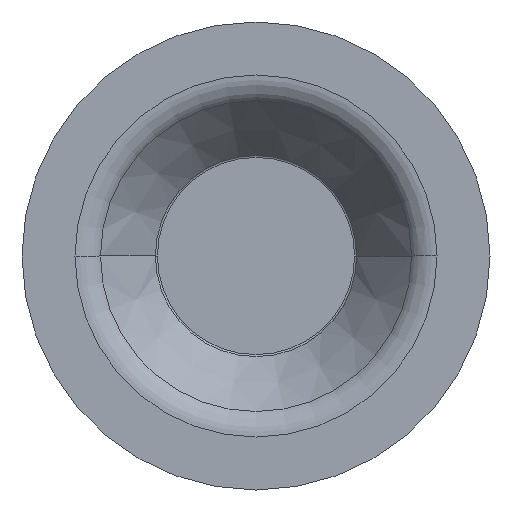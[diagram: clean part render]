
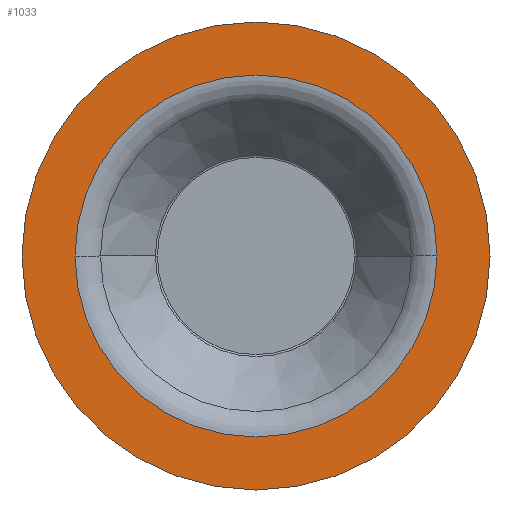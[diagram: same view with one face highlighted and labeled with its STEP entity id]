
A CAD part, front view. The second image highlights one B-rep face of the part: STEP entity #1033.
In plain terms, the highlighted planar face has unit normal (0, -1, 0).
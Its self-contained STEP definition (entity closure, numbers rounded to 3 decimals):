
#4 = EDGE_CURVE ( 'NONE', #700, #1322, #1376, .T. ) ;
#57 = EDGE_CURVE ( 'NONE', #1322, #700, #1025, .T. ) ;
#66 = DIRECTION ( 'NONE',  ( 0., -1., 0. ) ) ;
#114 = CIRCLE ( 'NONE', #1497, 36.744 ) ;
#128 = EDGE_CURVE ( 'NONE', #1304, #743, #970, .T. ) ;
#219 = DIRECTION ( 'NONE',  ( -1., 0., 0. ) ) ;
#278 = ORIENTED_EDGE ( 'NONE', *, *, #57, .T. ) ;
#282 = DIRECTION ( 'NONE',  ( 1., 0., 0. ) ) ;
#312 = CARTESIAN_POINT ( 'NONE',  ( 47.5, -22., 0. ) ) ;
#493 = DIRECTION ( 'NONE',  ( -1., 0., 0. ) ) ;
#557 = CARTESIAN_POINT ( 'NONE',  ( 36.744, -22., 0. ) ) ;
#594 = CARTESIAN_POINT ( 'NONE',  ( 47.5, -22., 0. ) ) ;
#602 = CARTESIAN_POINT ( 'NONE',  ( 0., -22., 0. ) ) ;
#641 = ORIENTED_EDGE ( 'NONE', *, *, #128, .F. ) ;
#646 = DIRECTION ( 'NONE',  ( 1., 0., 0. ) ) ;
#700 = VERTEX_POINT ( 'NONE', #961 ) ;
#730 = EDGE_LOOP ( 'NONE', ( #278, #1468 ) ) ;
#731 = CARTESIAN_POINT ( 'NONE',  ( 0., -22., 0. ) ) ;
#743 = VERTEX_POINT ( 'NONE', #557 ) ;
#774 = DIRECTION ( 'NONE',  ( 0., -1., 0. ) ) ;
#801 = DIRECTION ( 'NONE',  ( 1., 0., 0. ) ) ;
#924 = CARTESIAN_POINT ( 'NONE',  ( -36.744, -22., 0. ) ) ;
#961 = CARTESIAN_POINT ( 'NONE',  ( -47.5, -22., 0. ) ) ;
#970 = CIRCLE ( 'NONE', #1456, 36.744 ) ;
#1025 = CIRCLE ( 'NONE', #1212, 47.5 ) ;
#1033 = ADVANCED_FACE ( 'NONE', ( #1188, #1203 ), #1460, .T. ) ;
#1053 = CARTESIAN_POINT ( 'NONE',  ( 0., -22., 0. ) ) ;
#1150 = CARTESIAN_POINT ( 'NONE',  ( 0., -22., 0. ) ) ;
#1188 = FACE_BOUND ( 'NONE', #1511, .T. ) ;
#1203 = FACE_OUTER_BOUND ( 'NONE', #730, .T. ) ;
#1212 = AXIS2_PLACEMENT_3D ( 'NONE', #1150, #1545, #282 ) ;
#1304 = VERTEX_POINT ( 'NONE', #924 ) ;
#1322 = VERTEX_POINT ( 'NONE', #594 ) ;
#1365 = AXIS2_PLACEMENT_3D ( 'NONE', #312, #66, #801 ) ;
#1376 = CIRCLE ( 'NONE', #1616, 47.5 ) ;
#1421 = ORIENTED_EDGE ( 'NONE', *, *, #1455, .F. ) ;
#1455 = EDGE_CURVE ( 'NONE', #743, #1304, #114, .T. ) ;
#1456 = AXIS2_PLACEMENT_3D ( 'NONE', #731, #1495, #493 ) ;
#1460 = PLANE ( 'NONE',  #1365 ) ;
#1468 = ORIENTED_EDGE ( 'NONE', *, *, #4, .T. ) ;
#1493 = DIRECTION ( 'NONE',  ( 0., -1., 0. ) ) ;
#1495 = DIRECTION ( 'NONE',  ( 0., -1., 0. ) ) ;
#1497 = AXIS2_PLACEMENT_3D ( 'NONE', #602, #1493, #219 ) ;
#1511 = EDGE_LOOP ( 'NONE', ( #641, #1421 ) ) ;
#1545 = DIRECTION ( 'NONE',  ( 0., -1., 0. ) ) ;
#1616 = AXIS2_PLACEMENT_3D ( 'NONE', #1053, #774, #646 ) ;
